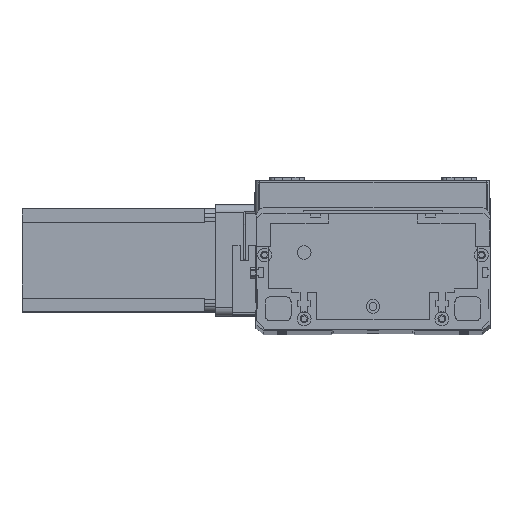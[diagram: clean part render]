
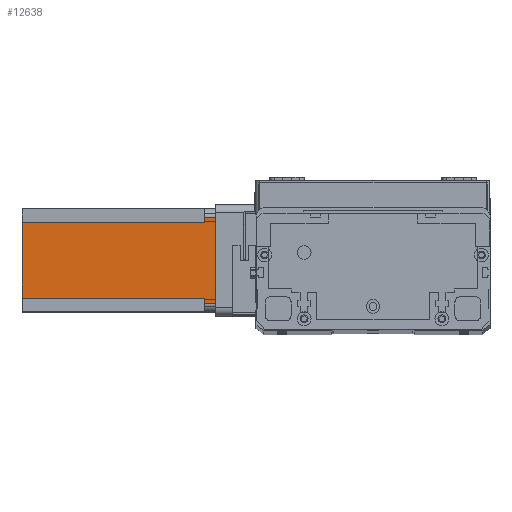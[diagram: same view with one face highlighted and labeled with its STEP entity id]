
A CAD part, top view. The second image highlights one B-rep face of the part: STEP entity #12638.
In plain terms, the highlighted planar face has unit normal (0, 0, 1) as drawn and (0, -1, 0) by its records, which use the part's own axes.
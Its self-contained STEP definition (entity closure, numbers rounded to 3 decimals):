
#173 = EDGE_CURVE ( 'NONE', #15753, #11204, #5567, .T. ) ;
#176 = CARTESIAN_POINT ( 'NONE',  ( 8., 0., -6.5 ) ) ;
#483 = CARTESIAN_POINT ( 'NONE',  ( 52., 0., -6.5 ) ) ;
#871 = DIRECTION ( 'NONE',  ( 0., 0., -1. ) ) ;
#914 = VERTEX_POINT ( 'NONE', #24152 ) ;
#1671 = DIRECTION ( 'NONE',  ( 0., 0., -1. ) ) ;
#1694 = DIRECTION ( 'NONE',  ( 0., -1., 0. ) ) ;
#1723 = CARTESIAN_POINT ( 'NONE',  ( 0., 0., -112.5 ) ) ;
#1783 = PLANE ( 'NONE',  #21679 ) ;
#2087 = VECTOR ( 'NONE', #5687, 1000. ) ;
#2306 = LINE ( 'NONE', #10997, #23088 ) ;
#2387 = CARTESIAN_POINT ( 'NONE',  ( 8., 0., -112.5 ) ) ;
#2714 = CARTESIAN_POINT ( 'NONE',  ( 52., 0., -112.5 ) ) ;
#2732 = LINE ( 'NONE', #19816, #2087 ) ;
#2906 = CARTESIAN_POINT ( 'NONE',  ( 0., 0., -112.5 ) ) ;
#3156 = CARTESIAN_POINT ( 'NONE',  ( 5., 0., -6.5 ) ) ;
#3330 = ORIENTED_EDGE ( 'NONE', *, *, #22634, .F. ) ;
#3386 = DIRECTION ( 'NONE',  ( 0., 0., 1. ) ) ;
#4462 = EDGE_CURVE ( 'NONE', #14373, #914, #18472, .T. ) ;
#4566 = VERTEX_POINT ( 'NONE', #3156 ) ;
#5567 = LINE ( 'NONE', #25520, #21587 ) ;
#5687 = DIRECTION ( 'NONE',  ( 0., 0., -1. ) ) ;
#5827 = LINE ( 'NONE', #8712, #21228 ) ;
#6328 = EDGE_LOOP ( 'NONE', ( #16392, #13818, #15074, #23571, #12340, #12229, #21880, #3330 ) ) ;
#7173 = VECTOR ( 'NONE', #20247, 1000. ) ;
#7928 = LINE ( 'NONE', #2906, #12032 ) ;
#8049 = VECTOR ( 'NONE', #19056, 1000. ) ;
#8456 = EDGE_CURVE ( 'NONE', #914, #21849, #5827, .T. ) ;
#8625 = DIRECTION ( 'NONE',  ( 0., 0., 1. ) ) ;
#8697 = LINE ( 'NONE', #19226, #8049 ) ;
#8712 = CARTESIAN_POINT ( 'NONE',  ( 55., 0., -112.5 ) ) ;
#8808 = VERTEX_POINT ( 'NONE', #25789 ) ;
#8982 = FACE_OUTER_BOUND ( 'NONE', #6328, .T. ) ;
#9025 = DIRECTION ( 'NONE',  ( 1., 0., 0. ) ) ;
#9224 = LINE ( 'NONE', #18973, #23935 ) ;
#10997 = CARTESIAN_POINT ( 'NONE',  ( 5., 0., -112.5 ) ) ;
#11204 = VERTEX_POINT ( 'NONE', #176 ) ;
#11927 = EDGE_CURVE ( 'NONE', #11204, #4566, #8697, .T. ) ;
#12032 = VECTOR ( 'NONE', #9025, 1000. ) ;
#12229 = ORIENTED_EDGE ( 'NONE', *, *, #173, .F. ) ;
#12340 = ORIENTED_EDGE ( 'NONE', *, *, #11927, .F. ) ;
#12638 = ADVANCED_FACE ( 'NONE', ( #8982 ), #1783, .T. ) ;
#13818 = ORIENTED_EDGE ( 'NONE', *, *, #8456, .T. ) ;
#14373 = VERTEX_POINT ( 'NONE', #483 ) ;
#15074 = ORIENTED_EDGE ( 'NONE', *, *, #19962, .F. ) ;
#15753 = VERTEX_POINT ( 'NONE', #2387 ) ;
#16392 = ORIENTED_EDGE ( 'NONE', *, *, #4462, .T. ) ;
#17584 = EDGE_CURVE ( 'NONE', #8808, #4566, #2306, .T. ) ;
#18472 = LINE ( 'NONE', #23296, #7173 ) ;
#18973 = CARTESIAN_POINT ( 'NONE',  ( 0., 0., 0. ) ) ;
#19056 = DIRECTION ( 'NONE',  ( -1., 0., 0. ) ) ;
#19226 = CARTESIAN_POINT ( 'NONE',  ( 8., 0., -6.5 ) ) ;
#19816 = CARTESIAN_POINT ( 'NONE',  ( 52., 0., -112.5 ) ) ;
#19962 = EDGE_CURVE ( 'NONE', #8808, #21849, #9224, .T. ) ;
#20247 = DIRECTION ( 'NONE',  ( 1., 0., 0. ) ) ;
#21228 = VECTOR ( 'NONE', #8625, 1000. ) ;
#21587 = VECTOR ( 'NONE', #3386, 1000. ) ;
#21679 = AXIS2_PLACEMENT_3D ( 'NONE', #1723, #1694, #1671 ) ;
#21849 = VERTEX_POINT ( 'NONE', #23328 ) ;
#21880 = ORIENTED_EDGE ( 'NONE', *, *, #24619, .T. ) ;
#22634 = EDGE_CURVE ( 'NONE', #14373, #25258, #2732, .T. ) ;
#23088 = VECTOR ( 'NONE', #871, 1000. ) ;
#23296 = CARTESIAN_POINT ( 'NONE',  ( 52., 0., -6.5 ) ) ;
#23328 = CARTESIAN_POINT ( 'NONE',  ( 55., 0., 0. ) ) ;
#23571 = ORIENTED_EDGE ( 'NONE', *, *, #17584, .T. ) ;
#23935 = VECTOR ( 'NONE', #25354, 1000. ) ;
#24152 = CARTESIAN_POINT ( 'NONE',  ( 55., 0., -6.5 ) ) ;
#24619 = EDGE_CURVE ( 'NONE', #15753, #25258, #7928, .T. ) ;
#25258 = VERTEX_POINT ( 'NONE', #2714 ) ;
#25354 = DIRECTION ( 'NONE',  ( 1., 0., 0. ) ) ;
#25520 = CARTESIAN_POINT ( 'NONE',  ( 8., 0., -112.5 ) ) ;
#25789 = CARTESIAN_POINT ( 'NONE',  ( 5., 0., 0. ) ) ;
